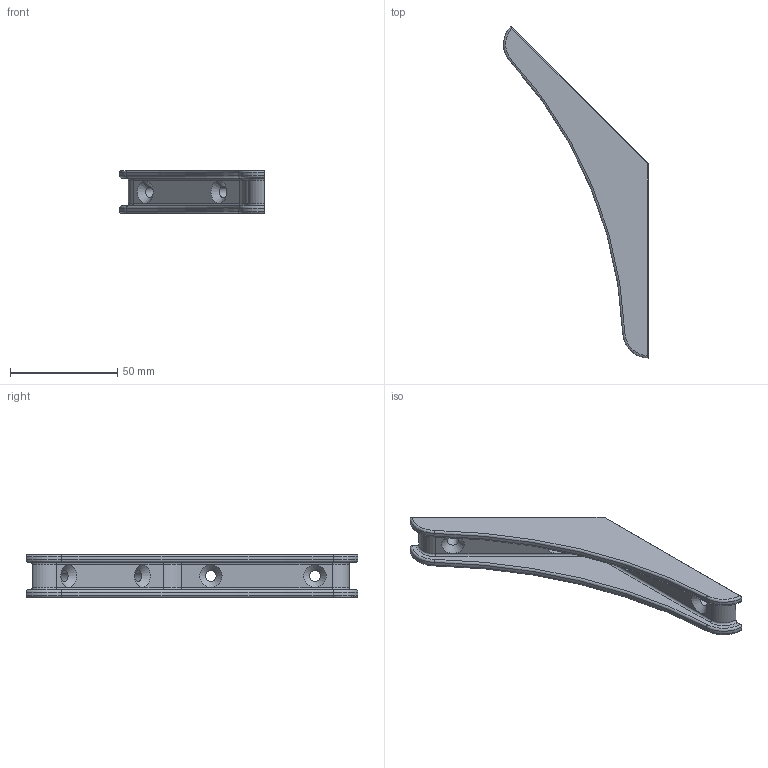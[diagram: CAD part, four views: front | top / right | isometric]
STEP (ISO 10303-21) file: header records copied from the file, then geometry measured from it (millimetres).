
FILE_DESCRIPTION (( 'STEP AP214' ), '1' );
FILE_NAME ('L19163.step', '2024-12-03T16:22:55', ( '' ), ( '' ), 'SwSTEP 2.0', 'SolidWorks 2023', '' );
FILE_SCHEMA (( 'AUTOMOTIVE_DESIGN' ));
Length unit declared in the file: millimetre
Products named in the file (1): L19163
Bounding box: 67.5 x 154.53 x 20 mm (x, y, z)
Volume: 29134.6 mm3; surface area: 18571.8 mm2
Topology: 1 solids, 1 shells, 85 faces, 229 edges, 146 vertices
Faces by surface type: cylinder 31, plane 24, torus 18, cone 12
Full cylindrical faces by diameter (mm): 5 x4
Entity records: 2702 total; most frequent: CARTESIAN_POINT 557, DIRECTION 465, ORIENTED_EDGE 434, EDGE_CURVE 217, AXIS2_PLACEMENT_3D 190, VERTEX_POINT 142, CIRCLE 104, EDGE_LOOP 101
